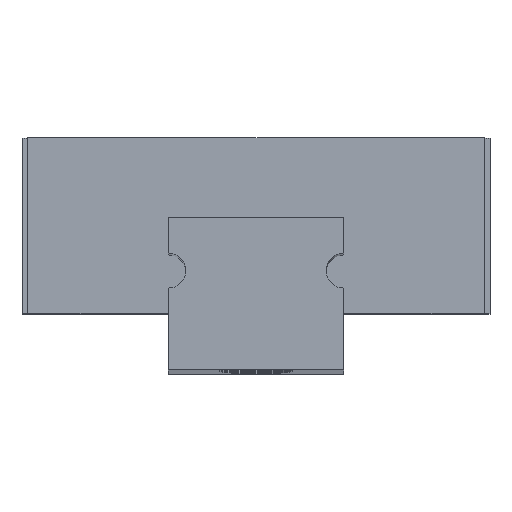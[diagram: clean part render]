
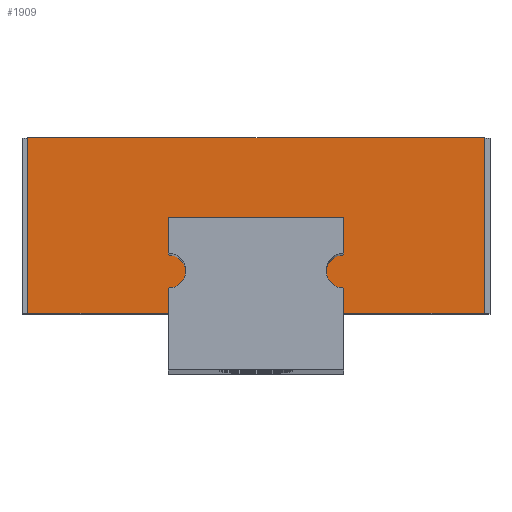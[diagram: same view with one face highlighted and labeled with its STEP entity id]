
A CAD part, top view. The second image highlights one B-rep face of the part: STEP entity #1909.
In plain terms, the highlighted planar face has unit normal (0, 0, 1).
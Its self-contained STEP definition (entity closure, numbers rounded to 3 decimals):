
#3 = LINE ( 'NONE', #359, #1906 ) ;
#28 = CARTESIAN_POINT ( 'NONE',  ( -1.5, -0.8, 5.5 ) ) ;
#50 = EDGE_CURVE ( 'NONE', #2363, #460, #267, .T. ) ;
#76 = DIRECTION ( 'NONE',  ( 0., 0., -1. ) ) ;
#117 = LINE ( 'NONE', #1560, #1313 ) ;
#120 = CIRCLE ( 'NONE', #491, 0.3 ) ;
#126 = VERTEX_POINT ( 'NONE', #2159 ) ;
#145 = EDGE_CURVE ( 'NONE', #2371, #126, #3, .T. ) ;
#192 = CIRCLE ( 'NONE', #1055, 0.3 ) ;
#229 = FACE_OUTER_BOUND ( 'NONE', #308, .T. ) ;
#267 = CIRCLE ( 'NONE', #333, 0.3 ) ;
#276 = DIRECTION ( 'NONE',  ( 1., 0., 0. ) ) ;
#292 = VECTOR ( 'NONE', #867, 1000. ) ;
#306 = EDGE_CURVE ( 'NONE', #777, #2406, #120, .T. ) ;
#308 = EDGE_LOOP ( 'NONE', ( #1577, #443, #1420, #1748, #582, #2024, #906, #2012, #1899, #2410, #2422, #2426, #828 ) ) ;
#320 = DIRECTION ( 'NONE',  ( 0., -1., 0. ) ) ;
#325 = VERTEX_POINT ( 'NONE', #662 ) ;
#333 = AXIS2_PLACEMENT_3D ( 'NONE', #28, #1971, #1381 ) ;
#359 = CARTESIAN_POINT ( 'NONE',  ( -1.5, 0.1, 5.5 ) ) ;
#400 = CARTESIAN_POINT ( 'NONE',  ( 1.5, -1.5, 5.5 ) ) ;
#407 = DIRECTION ( 'NONE',  ( -1., 0., 0. ) ) ;
#443 = ORIENTED_EDGE ( 'NONE', *, *, #570, .T. ) ;
#460 = VERTEX_POINT ( 'NONE', #2480 ) ;
#478 = CARTESIAN_POINT ( 'NONE',  ( -3.9, 1.5, 5.5 ) ) ;
#491 = AXIS2_PLACEMENT_3D ( 'NONE', #1270, #76, #276 ) ;
#519 = EDGE_CURVE ( 'NONE', #2406, #1795, #1780, .T. ) ;
#530 = CARTESIAN_POINT ( 'NONE',  ( 1.5, -1.1, 5.5 ) ) ;
#533 = CARTESIAN_POINT ( 'NONE',  ( -3.9, -1.5, 5.5 ) ) ;
#570 = EDGE_CURVE ( 'NONE', #2332, #1520, #2259, .T. ) ;
#582 = ORIENTED_EDGE ( 'NONE', *, *, #1661, .T. ) ;
#593 = VERTEX_POINT ( 'NONE', #1286 ) ;
#639 = DIRECTION ( 'NONE',  ( 0., 1., 0. ) ) ;
#656 = CARTESIAN_POINT ( 'NONE',  ( -3.9, -1.5, 5.5 ) ) ;
#662 = CARTESIAN_POINT ( 'NONE',  ( -3.9, 1.5, 5.5 ) ) ;
#720 = CARTESIAN_POINT ( 'NONE',  ( 0., 0., 5.5 ) ) ;
#759 = DIRECTION ( 'NONE',  ( 0., 1., 0. ) ) ;
#777 = VERTEX_POINT ( 'NONE', #530 ) ;
#820 = CARTESIAN_POINT ( 'NONE',  ( -1.2, -0.8, 5.5 ) ) ;
#828 = ORIENTED_EDGE ( 'NONE', *, *, #306, .F. ) ;
#832 = EDGE_CURVE ( 'NONE', #2332, #777, #1050, .T. ) ;
#865 = DIRECTION ( 'NONE',  ( 1., 0., 0. ) ) ;
#867 = DIRECTION ( 'NONE',  ( 0., -1., 0. ) ) ;
#868 = LINE ( 'NONE', #2066, #1540 ) ;
#906 = ORIENTED_EDGE ( 'NONE', *, *, #2051, .F. ) ;
#944 = DIRECTION ( 'NONE',  ( 0., 1., 0. ) ) ;
#957 = DIRECTION ( 'NONE',  ( 0., -1., 0. ) ) ;
#967 = VECTOR ( 'NONE', #407, 1000. ) ;
#1035 = LINE ( 'NONE', #1608, #967 ) ;
#1049 = CARTESIAN_POINT ( 'NONE',  ( 1.5, 0.1, 5.5 ) ) ;
#1050 = LINE ( 'NONE', #1936, #2404 ) ;
#1055 = AXIS2_PLACEMENT_3D ( 'NONE', #1427, #1828, #2216 ) ;
#1118 = EDGE_CURVE ( 'NONE', #126, #2363, #192, .T. ) ;
#1122 = AXIS2_PLACEMENT_3D ( 'NONE', #720, #2470, #1308 ) ;
#1251 = EDGE_CURVE ( 'NONE', #1520, #1720, #117, .T. ) ;
#1253 = CARTESIAN_POINT ( 'NONE',  ( 3.9, -1.5, 5.5 ) ) ;
#1270 = CARTESIAN_POINT ( 'NONE',  ( 1.5, -0.8, 5.5 ) ) ;
#1277 = VERTEX_POINT ( 'NONE', #1970 ) ;
#1286 = CARTESIAN_POINT ( 'NONE',  ( -3.9, -1.5, 5.5 ) ) ;
#1288 = LINE ( 'NONE', #478, #292 ) ;
#1308 = DIRECTION ( 'NONE',  ( 1., 0., 0. ) ) ;
#1313 = VECTOR ( 'NONE', #759, 1000. ) ;
#1341 = DIRECTION ( 'NONE',  ( 1., 0., 0. ) ) ;
#1381 = DIRECTION ( 'NONE',  ( 1., 0., 0. ) ) ;
#1420 = ORIENTED_EDGE ( 'NONE', *, *, #1251, .T. ) ;
#1427 = CARTESIAN_POINT ( 'NONE',  ( -1.5, -0.8, 5.5 ) ) ;
#1485 = CARTESIAN_POINT ( 'NONE',  ( 1.5, 0.1, 5.5 ) ) ;
#1520 = VERTEX_POINT ( 'NONE', #1253 ) ;
#1540 = VECTOR ( 'NONE', #320, 1000. ) ;
#1560 = CARTESIAN_POINT ( 'NONE',  ( 3.9, 1.5, 5.5 ) ) ;
#1571 = VECTOR ( 'NONE', #1341, 1000. ) ;
#1577 = ORIENTED_EDGE ( 'NONE', *, *, #832, .F. ) ;
#1608 = CARTESIAN_POINT ( 'NONE',  ( -1.5, 0.1, 5.5 ) ) ;
#1661 = EDGE_CURVE ( 'NONE', #325, #593, #1288, .T. ) ;
#1673 = DIRECTION ( 'NONE',  ( -1., 0., 0. ) ) ;
#1689 = CARTESIAN_POINT ( 'NONE',  ( 3.9, 1.5, 5.5 ) ) ;
#1720 = VERTEX_POINT ( 'NONE', #1689 ) ;
#1741 = EDGE_CURVE ( 'NONE', #1720, #325, #2078, .T. ) ;
#1748 = ORIENTED_EDGE ( 'NONE', *, *, #1741, .T. ) ;
#1749 = VECTOR ( 'NONE', #865, 1000. ) ;
#1780 = LINE ( 'NONE', #1049, #2498 ) ;
#1795 = VERTEX_POINT ( 'NONE', #1485 ) ;
#1828 = DIRECTION ( 'NONE',  ( 0., 0., -1. ) ) ;
#1839 = CARTESIAN_POINT ( 'NONE',  ( -1.5, 0.1, 5.5 ) ) ;
#1886 = CARTESIAN_POINT ( 'NONE',  ( -3.9, 1.5, 5.5 ) ) ;
#1899 = ORIENTED_EDGE ( 'NONE', *, *, #1118, .F. ) ;
#1906 = VECTOR ( 'NONE', #957, 1000. ) ;
#1909 = ADVANCED_FACE ( 'NONE', ( #229 ), #2110, .T. ) ;
#1936 = CARTESIAN_POINT ( 'NONE',  ( 1.5, -1.1, 5.5 ) ) ;
#1970 = CARTESIAN_POINT ( 'NONE',  ( -1.5, -1.5, 5.5 ) ) ;
#1971 = DIRECTION ( 'NONE',  ( 0., 0., -1. ) ) ;
#2012 = ORIENTED_EDGE ( 'NONE', *, *, #50, .F. ) ;
#2024 = ORIENTED_EDGE ( 'NONE', *, *, #2248, .T. ) ;
#2051 = EDGE_CURVE ( 'NONE', #460, #1277, #868, .T. ) ;
#2066 = CARTESIAN_POINT ( 'NONE',  ( -1.5, -1.1, 5.5 ) ) ;
#2078 = LINE ( 'NONE', #1886, #2333 ) ;
#2110 = PLANE ( 'NONE',  #1122 ) ;
#2159 = CARTESIAN_POINT ( 'NONE',  ( -1.5, -0.5, 5.5 ) ) ;
#2216 = DIRECTION ( 'NONE',  ( 1., 0., 0. ) ) ;
#2223 = CARTESIAN_POINT ( 'NONE',  ( 1.5, -0.5, 5.5 ) ) ;
#2248 = EDGE_CURVE ( 'NONE', #593, #1277, #2468, .T. ) ;
#2259 = LINE ( 'NONE', #656, #1749 ) ;
#2332 = VERTEX_POINT ( 'NONE', #400 ) ;
#2333 = VECTOR ( 'NONE', #1673, 1000. ) ;
#2339 = EDGE_CURVE ( 'NONE', #1795, #2371, #1035, .T. ) ;
#2363 = VERTEX_POINT ( 'NONE', #820 ) ;
#2371 = VERTEX_POINT ( 'NONE', #1839 ) ;
#2404 = VECTOR ( 'NONE', #944, 1000. ) ;
#2406 = VERTEX_POINT ( 'NONE', #2223 ) ;
#2410 = ORIENTED_EDGE ( 'NONE', *, *, #145, .F. ) ;
#2422 = ORIENTED_EDGE ( 'NONE', *, *, #2339, .F. ) ;
#2426 = ORIENTED_EDGE ( 'NONE', *, *, #519, .F. ) ;
#2468 = LINE ( 'NONE', #533, #1571 ) ;
#2470 = DIRECTION ( 'NONE',  ( 0., 0., 1. ) ) ;
#2480 = CARTESIAN_POINT ( 'NONE',  ( -1.5, -1.1, 5.5 ) ) ;
#2498 = VECTOR ( 'NONE', #639, 1000. ) ;
